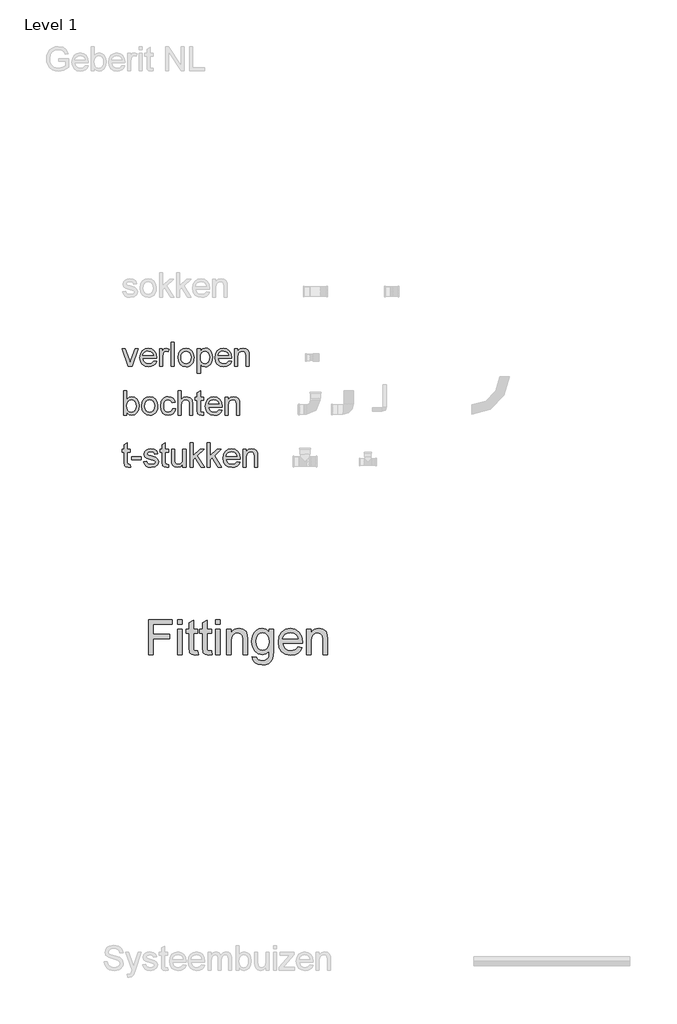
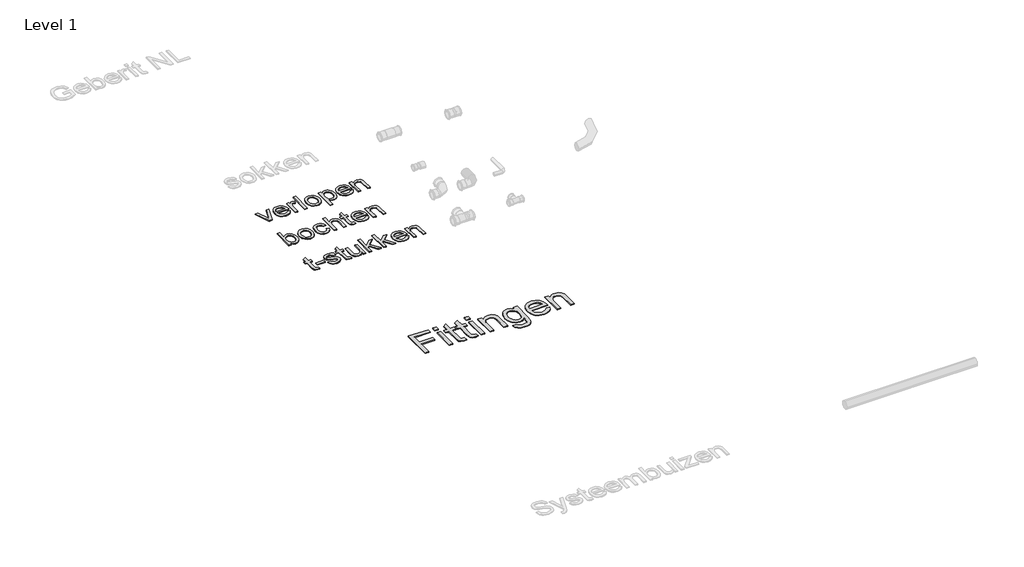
# One storey, part 2 of 8: 4 proxies.
"""IFC4 building model written with IfcOpenShell, lengths in millimetres."""

from ifc_helpers import new_model, si_unit, origin, origin_with_axes, place, context, project, spatial, polyline, outline, extrude, element, save

model = new_model("IFC4")

# Units and contexts
model_context = context("Model", 3, world=origin())
ifc_project = project(units=[si_unit("LENGTHUNIT", "METRE", prefix="MILLI")], contexts=[model_context])

# Site, building, storey
site = spatial("IfcSite", under=ifc_project)
building = spatial("IfcBuilding", under=site)
storey = spatial("IfcBuildingStorey", under=building, Name="Level 1", Elevation=0.0)

# Proxies
placement = place(None, origin())
element("IfcBuildingElementProxy", 1, Name="medium", ObjectType="medium", at=placement, inside=storey, context=model_context, shape_type="SweptSolid", body=[
    extrude(outline(polyline([(-1483.0852638, 3277.8495437), (-1483.0852638, 3478.762164), (-1348.097097, 3478.762164), (-1348.097097, 3453.6480864), (-1457.9711862, 3453.6480864), (-1457.9711862, 3394.0021523), (-1363.7933955, 3394.0021523), (-1363.7933955, 3368.8880747), (-1457.9711862, 3368.8880747), (-1457.9711862, 3277.8495437), (-1483.0852638, 3277.8495437)])), origin_with_axes(), (0.0, 0.0, 1.0), 5.0),
    extrude(outline(polyline([(-1316.7045001, 3277.8495437), (-1316.7045001, 3425.3947492), (-1291.5904225, 3425.3947492), (-1291.5904225, 3277.8495437), (-1316.7045001, 3277.8495437)])), origin_with_axes(), (0.0, 0.0, 1.0), 5.0),
    extrude(outline(polyline([(-1316.7045001, 3453.6480864), (-1316.7045001, 3478.762164), (-1291.5904225, 3478.762164), (-1291.5904225, 3453.6480864), (-1316.7045001, 3453.6480864)])), origin_with_axes(), (0.0, 0.0, 1.0), 5.0),
    extrude(outline(polyline([(-1200.5518915, 3298.7942919), (-1197.4126318, 3277.1137797), (-1216.199139, 3274.710284), (-1237.2419891, 3278.8796132), (-1247.7388887, 3289.8179712), (-1250.7800466, 3318.3165631), (-1250.7800466, 3400.2806717), (-1269.6156047, 3400.2806717), (-1269.6156047, 3425.3947492), (-1250.7800466, 3425.3947492), (-1250.7800466, 3461.250981), (-1225.665969, 3476.0153117), (-1225.665969, 3425.3947492), (-1200.5518915, 3425.3947492), (-1200.5518915, 3400.2806717), (-1225.665969, 3400.2806717), (-1225.665969, 3319.0523271), (-1224.3415938, 3306.1028809), (-1220.0496372, 3301.5166187), (-1211.4902495, 3299.8243615), (-1200.5518915, 3298.7942919)])), origin_with_axes(), (0.0, 0.0, 1.0), 5.0),
    extrude(outline(polyline([(-1122.0703992, 3298.7942919), (-1118.9311395, 3277.1137797), (-1137.7176467, 3274.710284), (-1158.7604968, 3278.8796132), (-1169.2573964, 3289.8179712), (-1172.2985542, 3318.3165631), (-1172.2985542, 3400.2806717), (-1191.1341124, 3400.2806717), (-1191.1341124, 3425.3947492), (-1172.2985542, 3425.3947492), (-1172.2985542, 3461.250981), (-1147.1844767, 3476.0153117), (-1147.1844767, 3425.3947492), (-1122.0703992, 3425.3947492), (-1122.0703992, 3400.2806717), (-1147.1844767, 3400.2806717), (-1147.1844767, 3319.0523271), (-1145.8601015, 3306.1028809), (-1141.5681449, 3301.5166187), (-1133.0087572, 3299.8243615), (-1122.0703992, 3298.7942919)])), origin_with_axes(), (0.0, 0.0, 1.0), 5.0),
    extrude(outline(polyline([(-1096.9563216, 3277.8495437), (-1096.9563216, 3425.3947492), (-1071.8422441, 3425.3947492), (-1071.8422441, 3277.8495437), (-1096.9563216, 3277.8495437)])), origin_with_axes(), (0.0, 0.0, 1.0), 5.0),
    extrude(outline(polyline([(-1096.9563216, 3453.6480864), (-1096.9563216, 3478.762164), (-1071.8422441, 3478.762164), (-1071.8422441, 3453.6480864), (-1096.9563216, 3453.6480864)])), origin_with_axes(), (0.0, 0.0, 1.0), 5.0),
    extrude(outline(polyline([(-1034.1711278, 3277.8495437), (-1034.1711278, 3425.3947492), (-1009.0570503, 3425.3947492), (-1009.0570503, 3404.7933575), (-1000.3321156, 3415.1798925), (-989.8536101, 3422.598846), (-977.6215338, 3427.0502182), (-963.6358866, 3428.5340089), (-939.9197606, 3423.7515429), (-923.7329528, 3411.1945042), (-916.2036347, 3392.726828), (-914.8792595, 3368.4466163), (-914.8792595, 3277.8495437), (-939.993337, 3277.8495437), (-939.993337, 3365.062102), (-942.8873421, 3387.2821745), (-953.1144615, 3399.0298729), (-970.3558644, 3403.4199313), (-985.0650128, 3400.955122), (-997.6036575, 3393.5606939), (-1006.1937021, 3379.2746097), (-1009.0570503, 3356.1348322), (-1009.0570503, 3277.8495437), (-1034.1711278, 3277.8495437)])), origin_with_axes(), (0.0, 0.0, 1.0), 5.0),
    extrude(outline(polyline([(-886.6259223, 3265.2925049), (-861.5118447, 3262.1532452), (-858.740467, 3254.305096), (-853.3693899, 3248.9094934), (-842.8111766, 3244.7156386), (-828.9910763, 3243.317687), (-814.2512711, 3244.8995796), (-803.2883876, 3249.6452574), (-795.6854931, 3257.2481519), (-791.0256544, 3267.401695), (-789.3088718, 3296.6851018), (-806.991733, 3282.5584332), (-828.549618, 3277.8495437), (-854.442379, 3283.3309854), (-873.7500524, 3299.7753106), (-885.7613996, 3323.883844), (-889.7651819, 3352.3579104), (-887.9686915, 3372.6343397), (-882.5792203, 3391.2798255), (-873.7868406, 3407.0803572), (-861.7816249, 3418.8219242), (-846.9743745, 3426.1059877), (-829.7758913, 3428.5340089), (-807.3718778, 3423.0403044), (-789.3088718, 3406.559191), (-789.3088718, 3425.3947492), (-764.1947943, 3425.3947492), (-764.1947943, 3298.009477), (-765.9115769, 3268.5973115), (-771.0619248, 3249.2283244), (-779.9340123, 3236.3831114), (-792.8160135, 3226.5422681), (-809.4258856, 3220.2882741), (-829.4815857, 3218.2036095), (-852.8482237, 3221.1405341), (-871.2484549, 3229.9513079), (-883.0513355, 3244.6604563), (-886.6259223, 3265.2925049)]), holes=[polyline([(-864.6511044, 3354.0746931), (-861.9716972, 3331.0391488), (-853.9334756, 3315.2018289), (-841.8485521, 3306.0231731), (-827.029039, 3302.9636212), (-812.3198906, 3306.004779), (-800.1736534, 3315.1282525), (-792.0250672, 3330.7632373), (-789.3088718, 3353.3389291), (-792.104775, 3375.1114118), (-800.4924845, 3390.7893162), (-812.8165313, 3400.2622776), (-827.4214465, 3403.4199313), (-841.7627129, 3400.3113285), (-853.7863228, 3390.9855199), (-861.934909, 3375.5406075), (-864.6511044, 3354.0746931)])]), origin_with_axes(), (0.0, 0.0, 1.0), 5.0),
    extrude(outline(polyline([(-623.2224137, 3321.7991793), (-598.5988455, 3318.6599197), (-607.470933, 3300.1064044), (-621.6282584, 3286.2372531), (-640.7519908, 3277.5920263), (-664.523299, 3274.710284), (-693.9906469, 3279.6828223), (-716.6644405, 3294.6004372), (-731.1222029, 3318.4943728), (-735.941457, 3350.3958731), (-731.073152, 3383.3703626), (-716.4682368, 3408.030719), (-694.1010114, 3423.4081864), (-665.9457761, 3428.5340089), (-638.6673261, 3423.4204491), (-616.8703179, 3408.07977), (-602.5781024, 3383.4684645), (-597.8140306, 3350.5430259), (-597.9611834, 3343.7739972), (-710.8273795, 3343.7739972), (-706.4802406, 3324.9752272), (-696.3818798, 3311.155127), (-681.8076214, 3302.6570529), (-664.0327897, 3299.8243615), (-639.4092215, 3305.0728113), (-630.2612226, 3311.8786282), (-623.2224137, 3321.7991793)]), holes=[polyline([(-710.8273795, 3368.8880747), (-622.9281081, 3368.8880747), (-626.3248852, 3382.156352), (-632.9835493, 3391.6477075), (-647.6252527, 3400.4768754), (-666.0438779, 3403.4199313), (-682.9725811, 3401.0716179), (-696.970491, 3394.0266777), (-706.7009698, 3383.0454002), (-710.8273795, 3368.8880747)])]), origin_with_axes(), (0.0, 0.0, 1.0), 5.0),
    extrude(outline(polyline([(-572.699953, 3277.8495437), (-572.699953, 3425.3947492), (-547.5858755, 3425.3947492), (-547.5858755, 3404.7933575), (-538.8609409, 3415.1798925), (-528.3824354, 3422.598846), (-516.150359, 3427.0502182), (-502.1647118, 3428.5340089), (-478.4485859, 3423.7515429), (-462.2617781, 3411.1945042), (-454.7324599, 3392.726828), (-453.4080847, 3368.4466163), (-453.4080847, 3277.8495437), (-478.5221623, 3277.8495437), (-478.5221623, 3365.062102), (-481.4161673, 3387.2821745), (-491.6432868, 3399.0298729), (-508.8846896, 3403.4199313), (-523.5938381, 3400.955122), (-536.1324827, 3393.5606939), (-544.7225273, 3379.2746097), (-547.5858755, 3356.1348322), (-547.5858755, 3277.8495437), (-572.699953, 3277.8495437)])), origin_with_axes(), (0.0, 0.0, 1.0), 5.0),
])
element("IfcBuildingElementProxy", 2, Name="small", ObjectType="small", at=placement, inside=storey, context=model_context, shape_type="SweptSolid", body=[
    extrude(outline(polyline([(-1602.2891606, 4938.9619491), (-1638.6162814, 5042.2435929), (-1620.0063575, 5042.2435929), (-1597.997204, 4980.3707464), (-1591.370423, 4959.5633408), (-1584.8809846, 4979.2033343), (-1562.7344885, 5042.2435929), (-1544.1245646, 5042.2435929), (-1580.0053219, 4938.9619491), (-1602.2891606, 4938.9619491)])), origin_with_axes(), (0.0, 0.0, 1.0), 5.0),
    extrude(outline(polyline([(-1456.4313072, 4969.7266941), (-1439.1948094, 4967.5292123), (-1445.4052706, 4954.5417516), (-1455.3153984, 4944.8333457), (-1468.7020111, 4938.7816869), (-1485.3419269, 4936.7644673), (-1505.9690704, 4940.2452441), (-1521.8407259, 4950.6875745), (-1531.9611596, 4967.4133294), (-1535.3346375, 4989.7443797), (-1531.9268239, 5012.8265223), (-1521.7033833, 5030.0887718), (-1506.0463256, 5040.852999), (-1486.3376608, 5044.4410747), (-1467.2427459, 5040.8615829), (-1451.9848401, 5030.1231075), (-1441.9802893, 5012.8951936), (-1438.645439, 4989.8473866), (-1438.7484459, 4985.1090665), (-1517.7547832, 4985.1090665), (-1514.711786, 4971.9499276), (-1507.6429334, 4962.2758574), (-1497.4409526, 4956.3272055), (-1484.9985704, 4954.3443216), (-1467.7620726, 4958.0182364), (-1456.4313072, 4969.7266941)]), holes=[polyline([(-1517.7547832, 5002.6889208), (-1456.2252932, 5002.6889208), (-1463.2641021, 5018.6206638), (-1473.5132945, 5024.8010813), (-1486.4063321, 5026.8612205), (-1498.2564243, 5025.2174011), (-1508.0549613, 5020.2859429), (-1514.8662964, 5012.5990486), (-1517.7547832, 5002.6889208)])]), origin_with_axes(), (0.0, 0.0, 1.0), 5.0),
    extrude(outline(polyline([(-1421.0655847, 4938.9619491), (-1421.0655847, 5042.2435929), (-1405.6832122, 5042.2435929), (-1405.6832122, 5026.9642274), (-1394.7644746, 5041.0418451), (-1383.7770657, 5044.4410747), (-1366.1285401, 5039.0160416), (-1371.9999367, 5023.2559769), (-1384.3607718, 5026.8612205), (-1394.3009433, 5023.3933195), (-1400.6358712, 5013.7793367), (-1403.4857304, 4993.2466163), (-1403.4857304, 4938.9619491), (-1421.0655847, 4938.9619491)])), origin_with_axes(), (0.0, 0.0, 1.0), 5.0),
    extrude(outline(polyline([(-1355.1411312, 4938.9619491), (-1355.1411312, 5079.6007833), (-1337.5612769, 5079.6007833), (-1337.5612769, 4938.9619491), (-1355.1411312, 4938.9619491)])), origin_with_axes(), (0.0, 0.0, 1.0), 5.0),
    extrude(outline(polyline([(-1315.586459, 4990.602771), (-1311.7837855, 5015.5047033), (-1300.3757648, 5033.0073023), (-1286.2809793, 5041.5826316), (-1269.4050059, 5044.4410747), (-1250.9367166, 5040.9602979), (-1236.1852617, 5030.5179675), (-1226.5154835, 5013.9381391), (-1223.2922241, 4992.0448684), (-1224.7171537, 4974.284752), (-1228.9919425, 4960.7650887), (-1235.9921237, 4950.640363), (-1245.5932306, 4943.0650596), (-1256.9969593, 4938.3396154), (-1269.4050059, 4936.7644673), (-1288.0964769, 4940.2323682), (-1302.830764, 4950.6360711), (-1312.3975353, 4967.5635479), (-1315.586459, 4990.602771)]), holes=[polyline([(-1298.0066048, 4990.6371067), (-1295.9722173, 4974.7268235), (-1289.869055, 4963.3917661), (-1280.6842679, 4956.6061827), (-1269.4050059, 4954.3443216), (-1258.1772474, 4956.6190586), (-1249.0096281, 4963.4432696), (-1242.9064658, 4974.9285455), (-1240.8720784, 4991.1864771), (-1242.9193417, 5006.6332289), (-1249.0611316, 5017.8137759), (-1258.2416268, 5024.5993593), (-1269.4050059, 5026.8612205), (-1280.6842679, 5024.6079432), (-1289.869055, 5017.8481116), (-1295.9722173, 5006.5388059), (-1298.0066048, 4990.6371067)])]), origin_with_axes(), (0.0, 0.0, 1.0), 5.0),
    extrude(outline(polyline([(-1203.514888, 4899.407277), (-1203.514888, 5042.2435929), (-1185.9350338, 5042.2435929), (-1185.9350338, 5025.0070952), (-1173.7802126, 5039.5825798), (-1157.3677706, 5044.4410747), (-1145.4790507, 5042.7414599), (-1135.0839318, 5037.6426155), (-1126.6201934, 5029.4535622), (-1120.525615, 5018.4833211), (-1115.6156166, 4991.392491), (-1121.1608246, 4962.911067), (-1127.9592839, 4951.7348119), (-1137.2642458, 4943.5114231), (-1148.1014362, 4938.4512062), (-1159.496581, 4936.7644673), (-1174.7931144, 4941.2796056), (-1185.9350338, 4952.6962102), (-1185.9350338, 4899.407277), (-1203.514888, 4899.407277)]), holes=[polyline([(-1185.9350338, 4989.7787153), (-1184.033697, 4974.0186507), (-1178.3296866, 4962.9969061), (-1169.9131597, 4956.5074677), (-1159.8742732, 4954.3443216), (-1149.6722923, 4956.5847229), (-1141.0411676, 4963.305927), (-1135.1568951, 4974.7311155), (-1133.1954709, 4991.0834701), (-1135.1096836, 5006.7576957), (-1140.8523215, 5017.9339507), (-1149.2559726, 5024.629403), (-1159.1532245, 5026.8612205), (-1169.0891041, 5024.4877684), (-1177.8146518, 5017.3674124), (-1183.9049383, 5005.7233341), (-1185.9350338, 4989.7787153)])]), origin_with_axes(), (0.0, 0.0, 1.0), 5.0),
    extrude(outline(polyline([(-1023.5273956, 4969.7266941), (-1006.2908979, 4967.5292123), (-1012.5013591, 4954.5417516), (-1022.4114869, 4944.8333457), (-1035.7980996, 4938.7816869), (-1052.4380153, 4936.7644673), (-1073.0651588, 4940.2452441), (-1088.9368144, 4950.6875745), (-1099.057248, 4967.4133294), (-1102.4307259, 4989.7443797), (-1099.0229124, 5012.8265223), (-1088.7994717, 5030.0887718), (-1073.142414, 5040.852999), (-1053.4337493, 5044.4410747), (-1034.3388343, 5040.8615829), (-1019.0809286, 5030.1231075), (-1009.0763777, 5012.8951936), (-1005.7415274, 4989.8473866), (-1005.8445344, 4985.1090665), (-1084.8508717, 4985.1090665), (-1081.8078744, 4971.9499276), (-1074.7390219, 4962.2758574), (-1064.537041, 4956.3272055), (-1052.0946588, 4954.3443216), (-1034.8581611, 4958.0182364), (-1023.5273956, 4969.7266941)]), holes=[polyline([(-1084.8508717, 5002.6889208), (-1023.3213817, 5002.6889208), (-1030.3601905, 5018.6206638), (-1040.6093829, 5024.8010813), (-1053.5024206, 5026.8612205), (-1065.3525128, 5025.2174011), (-1075.1510497, 5020.2859429), (-1081.9623849, 5012.5990486), (-1084.8508717, 5002.6889208)])]), origin_with_axes(), (0.0, 0.0, 1.0), 5.0),
    extrude(outline(polyline([(-988.1616731, 4938.9619491), (-988.1616731, 5042.2435929), (-970.5818189, 5042.2435929), (-970.5818189, 5027.8226187), (-957.1394108, 5040.2864607), (-938.7870043, 5044.4410747), (-922.1857161, 5041.0933486), (-910.8549507, 5032.3034214), (-905.584428, 5019.3760481), (-904.6573653, 5002.3798999), (-904.6573653, 4938.9619491), (-922.2372196, 4938.9619491), (-922.2372196, 5000.0107399), (-924.2630231, 5015.5647907), (-931.4220068, 5023.7881795), (-943.4909887, 5026.8612205), (-953.7873927, 5025.1358539), (-962.5644439, 5019.9597542), (-968.5774751, 5009.9594953), (-970.5818189, 4993.7616511), (-970.5818189, 4938.9619491), (-988.1616731, 4938.9619491)])), origin_with_axes(), (0.0, 0.0, 1.0), 5.0),
])
element("IfcBuildingElementProxy", 3, Name="small", ObjectType="small", at=placement, inside=storey, context=model_context, shape_type="SweptSolid", body=[
    extrude(outline(polyline([(-1610.0490182, 4658.9619491), (-1627.6288724, 4658.9619491), (-1627.6288724, 4799.6007833), (-1610.0490182, 4799.6007833), (-1610.0490182, 4747.4449266), (-1597.7396866, 4760.1920377), (-1582.4431532, 4764.4410747), (-1564.8289633, 4760.6126494), (-1551.1633735, 4749.8484223), (-1542.7683063, 4733.1097915), (-1539.7296011, 4712.1478754), (-1542.8756053, 4688.6794566), (-1552.3136178, 4671.2197772), (-1566.1637618, 4660.3782948), (-1582.5461602, 4656.7644673), (-1598.1774662, 4661.4255322), (-1610.0490182, 4675.4087268), (-1610.0490182, 4658.9619491)]), holes=[polyline([(-1610.0490182, 4711.3238197), (-1608.8472703, 4696.6624959), (-1605.2420268, 4686.7394923), (-1596.0314879, 4677.4431142), (-1584.0569289, 4674.3443216), (-1573.9107435, 4676.6276425), (-1565.2409912, 4683.4776052), (-1559.2923393, 4694.8512902), (-1557.3094553, 4710.705778), (-1559.2107921, 4726.7920313), (-1564.9148024, 4738.0369577), (-1573.3141615, 4744.6551548), (-1583.3015446, 4746.8612205), (-1593.44773, 4744.5778995), (-1602.1174823, 4737.7279368), (-1608.0661342, 4726.5602657), (-1610.0490182, 4711.3238197)])]), origin_with_axes(), (0.0, 0.0, 1.0), 5.0),
    extrude(outline(polyline([(-1524.3472286, 4710.602771), (-1520.544555, 4735.5047033), (-1509.1365343, 4753.0073023), (-1495.0417488, 4761.5826316), (-1478.1657754, 4764.4410747), (-1459.6974861, 4760.9602979), (-1444.9460313, 4750.5179675), (-1435.276253, 4733.9381391), (-1432.0529936, 4712.0448684), (-1433.4779232, 4694.284752), (-1437.752712, 4680.7650887), (-1444.7528932, 4670.640363), (-1454.3540002, 4663.0650596), (-1465.7577289, 4658.3396154), (-1478.1657754, 4656.7644673), (-1496.8572465, 4660.2323682), (-1511.5915335, 4670.6360711), (-1521.1583048, 4687.5635479), (-1524.3472286, 4710.602771)]), holes=[polyline([(-1506.7673743, 4710.6371067), (-1504.7329869, 4694.7268235), (-1498.6298246, 4683.3917661), (-1489.4450374, 4676.6061827), (-1478.1657754, 4674.3443216), (-1466.9380169, 4676.6190586), (-1457.7703976, 4683.4432696), (-1451.6672353, 4694.9285455), (-1449.6328479, 4711.1864771), (-1451.6801112, 4726.6332289), (-1457.8219011, 4737.8137759), (-1467.0023963, 4744.5993593), (-1478.1657754, 4746.8612205), (-1489.4450374, 4744.6079432), (-1498.6298246, 4737.8481116), (-1504.7329869, 4726.5388059), (-1506.7673743, 4710.6371067)])]), origin_with_axes(), (0.0, 0.0, 1.0), 5.0),
    extrude(outline(polyline([(-1346.351204, 4696.3191394), (-1328.7713497, 4694.1216576), (-1333.6727642, 4678.4860597), (-1342.8833031, 4666.6703031), (-1355.5359912, 4659.2409263), (-1370.7638532, 4656.7644673), (-1389.4639082, 4660.2194924), (-1404.0866043, 4670.5845676), (-1413.5246169, 4687.4047455), (-1416.6706211, 4710.2250788), (-1411.2970914, 4739.4275516), (-1404.5158, 4750.3763329), (-1394.918985, 4758.1919859), (-1383.4380011, 4762.8788025), (-1371.0042028, 4764.4410747), (-1356.149741, 4762.2950964), (-1344.273897, 4755.8571615), (-1335.7543632, 4745.4706265), (-1330.9688315, 4731.478848), (-1348.5486858, 4729.2813662), (-1356.7034034, 4742.4490891), (-1370.8668602, 4746.8612205), (-1382.2276693, 4744.6894904), (-1391.2450702, 4738.1743003), (-1397.1293427, 4726.9637096), (-1399.0907668, 4710.705778), (-1397.1722622, 4694.2289565), (-1391.4167484, 4682.9797383), (-1382.5624419, 4676.5031757), (-1371.3475593, 4674.3443216), (-1354.7806068, 4679.7350191), (-1349.3512817, 4686.5763979), (-1346.351204, 4696.3191394)])), origin_with_axes(), (0.0, 0.0, 1.0), 5.0),
    extrude(outline(polyline([(-1313.3889773, 4658.9619491), (-1313.3889773, 4799.6007833), (-1295.809123, 4799.6007833), (-1295.809123, 4747.89129), (-1282.1006136, 4760.3036286), (-1265.2160563, 4764.4410747), (-1245.4730559, 4759.9259364), (-1233.489913, 4747.4449266), (-1229.8846694, 4724.3370322), (-1229.8846694, 4658.9619491), (-1247.4645237, 4658.9619491), (-1247.4645237, 4722.5172426), (-1248.8637016, 4733.5218193), (-1253.0612351, 4741.0584951), (-1259.8253588, 4745.4105391), (-1268.9243068, 4746.8612205), (-1283.3281132, 4742.946956), (-1292.942096, 4732.3372393), (-1295.809123, 4713.8303224), (-1295.809123, 4658.9619491), (-1313.3889773, 4658.9619491)])), origin_with_axes(), (0.0, 0.0, 1.0), 5.0),
    extrude(outline(polyline([(-1168.3551795, 4673.6232729), (-1166.1576977, 4658.4469143), (-1179.3082527, 4656.7644673), (-1194.0382478, 4659.6829978), (-1201.3860775, 4667.3398484), (-1203.514888, 4687.2888627), (-1203.514888, 4744.6637387), (-1216.6997787, 4744.6637387), (-1216.6997787, 4762.2435929), (-1203.514888, 4762.2435929), (-1203.514888, 4787.3429552), (-1185.9350338, 4797.6779867), (-1185.9350338, 4762.2435929), (-1168.3551795, 4762.2435929), (-1168.3551795, 4744.6637387), (-1185.9350338, 4744.6637387), (-1185.9350338, 4687.8038975), (-1185.0079711, 4678.7392851), (-1182.0036015, 4675.5289016), (-1176.0120301, 4674.3443216), (-1168.3551795, 4673.6232729)])), origin_with_axes(), (0.0, 0.0, 1.0), 5.0),
    extrude(outline(polyline([(-1078.4644402, 4689.7266941), (-1061.2279425, 4687.5292123), (-1067.4384037, 4674.5417516), (-1077.3485315, 4664.8333457), (-1090.7351442, 4658.7816869), (-1107.37506, 4656.7644673), (-1128.0022034, 4660.2452441), (-1143.873859, 4670.6875745), (-1153.9942927, 4687.4133294), (-1157.3677706, 4709.7443797), (-1153.959957, 4732.8265223), (-1143.7365164, 4750.0887718), (-1128.0794586, 4760.852999), (-1108.3707939, 4764.4410747), (-1089.2758789, 4760.8615829), (-1074.0179732, 4750.1231075), (-1064.0134223, 4732.8951936), (-1060.678572, 4709.8473866), (-1060.781579, 4705.1090665), (-1139.7879163, 4705.1090665), (-1136.744919, 4691.9499276), (-1129.6760665, 4682.2758574), (-1119.4740856, 4676.3272055), (-1107.0317034, 4674.3443216), (-1089.7952057, 4678.0182364), (-1078.4644402, 4689.7266941)]), holes=[polyline([(-1139.7879163, 4722.6889208), (-1078.2584263, 4722.6889208), (-1085.2972352, 4738.6206638), (-1095.5464275, 4744.8010813), (-1108.4394652, 4746.8612205), (-1120.2895574, 4745.2174011), (-1130.0880943, 4740.2859429), (-1136.8994295, 4732.5990486), (-1139.7879163, 4722.6889208)])]), origin_with_axes(), (0.0, 0.0, 1.0), 5.0),
    extrude(outline(polyline([(-1043.0987178, 4658.9619491), (-1043.0987178, 4762.2435929), (-1025.5188635, 4762.2435929), (-1025.5188635, 4747.8226187), (-1012.0764554, 4760.2864607), (-993.7240489, 4764.4410747), (-977.1227607, 4761.0933486), (-965.7919953, 4752.3034214), (-960.5214726, 4739.3760481), (-959.5944099, 4722.3798999), (-959.5944099, 4658.9619491), (-977.1742642, 4658.9619491), (-977.1742642, 4720.0107399), (-979.2000677, 4735.5647907), (-986.3590514, 4743.7881795), (-998.4280334, 4746.8612205), (-1008.7244373, 4745.1358539), (-1017.5014885, 4739.9597542), (-1023.5145197, 4729.9594953), (-1025.5188635, 4713.7616511), (-1025.5188635, 4658.9619491), (-1043.0987178, 4658.9619491)])), origin_with_axes(), (0.0, 0.0, 1.0), 5.0),
])
element("IfcBuildingElementProxy", 4, Name="small", ObjectType="small", at=placement, inside=storey, context=model_context, shape_type="SweptSolid", body=[
    extrude(outline(polyline([(-1590.2716821, 4373.6232729), (-1588.0742003, 4358.4469143), (-1601.2247554, 4356.7644673), (-1615.9547505, 4359.6829978), (-1623.3025802, 4367.3398484), (-1625.4313907, 4387.2888627), (-1625.4313907, 4444.6637387), (-1638.6162814, 4444.6637387), (-1638.6162814, 4462.2435929), (-1625.4313907, 4462.2435929), (-1625.4313907, 4487.3429552), (-1607.8515364, 4497.6779867), (-1607.8515364, 4462.2435929), (-1590.2716821, 4462.2435929), (-1590.2716821, 4444.6637387), (-1607.8515364, 4444.6637387), (-1607.8515364, 4387.8038975), (-1606.9244738, 4378.7392851), (-1603.9201041, 4375.5289016), (-1597.9285327, 4374.3443216), (-1590.2716821, 4373.6232729)])), origin_with_axes(), (0.0, 0.0, 1.0), 5.0),
    extrude(outline(polyline([(-1581.481755, 4400.714103), (-1581.481755, 4418.2939573), (-1526.5447104, 4418.2939573), (-1526.5447104, 4400.714103), (-1581.481755, 4400.714103)])), origin_with_axes(), (0.0, 0.0, 1.0), 5.0),
    extrude(outline(polyline([(-1513.3598196, 4389.7266941), (-1495.7799654, 4391.9241758), (-1493.0073614, 4384.4046679), (-1487.6424156, 4378.8766277), (-1468.9981561, 4374.3443216), (-1451.0749453, 4378.4989356), (-1445.2378843, 4388.250261), (-1451.109281, 4396.1474611), (-1469.20417, 4401.1604665), (-1495.6769584, 4409.7615475), (-1507.2309056, 4419.804726), (-1511.1623379, 4433.9853506), (-1508.0034578, 4447.0844022), (-1499.3852089, 4457.093245), (-1488.2089539, 4462.2950964), (-1473.0840988, 4464.4410747), (-1451.6929871, 4460.9903416), (-1438.0960685, 4451.651044), (-1432.0529936, 4435.8738115), (-1449.6328479, 4433.6763297), (-1456.2424611, 4443.3761517), (-1471.7106727, 4446.8612205), (-1488.5351426, 4443.5306621), (-1493.5824836, 4435.7708046), (-1491.4880088, 4430.6547923), (-1484.9298991, 4426.7748635), (-1469.7878761, 4423.0322774), (-1443.984633, 4414.757385), (-1432.0014901, 4405.3837518), (-1427.65803, 4390.1043862), (-1432.7568745, 4373.2799163), (-1447.4697018, 4361.0735917), (-1469.2385057, 4356.7644673), (-1486.9642865, 4358.8417743), (-1499.9002437, 4365.0736953), (-1508.5356604, 4375.391559), (-1513.3598196, 4389.7266941)])), origin_with_axes(), (0.0, 0.0, 1.0), 5.0),
    extrude(outline(polyline([(-1370.5235037, 4373.6232729), (-1368.3260219, 4358.4469143), (-1381.4765769, 4356.7644673), (-1396.206572, 4359.6829978), (-1403.5544017, 4367.3398484), (-1405.6832122, 4387.2888627), (-1405.6832122, 4444.6637387), (-1418.8681029, 4444.6637387), (-1418.8681029, 4462.2435929), (-1405.6832122, 4462.2435929), (-1405.6832122, 4487.3429552), (-1388.1033579, 4497.6779867), (-1388.1033579, 4462.2435929), (-1370.5235037, 4462.2435929), (-1370.5235037, 4444.6637387), (-1388.1033579, 4444.6637387), (-1388.1033579, 4387.8038975), (-1387.1762953, 4378.7392851), (-1384.1719257, 4375.5289016), (-1378.1803542, 4374.3443216), (-1370.5235037, 4373.6232729)])), origin_with_axes(), (0.0, 0.0, 1.0), 5.0),
    extrude(outline(polyline([(-1287.0191958, 4358.9619491), (-1287.0191958, 4376.7134816), (-1300.7877926, 4361.7517209), (-1318.7453391, 4356.7644673), (-1335.277956, 4360.2667039), (-1346.6773927, 4369.056631), (-1351.9135798, 4382.0011722), (-1352.9436494, 4398.3449429), (-1352.9436494, 4462.2435929), (-1335.3637951, 4462.2435929), (-1335.3637951, 4406.6198353), (-1334.2993899, 4388.6966245), (-1327.3464202, 4378.1727469), (-1314.2473686, 4374.3443216), (-1299.568877, 4378.258586), (-1289.869055, 4388.9198062), (-1287.0191958, 4408.5082962), (-1287.0191958, 4462.2435929), (-1269.4393416, 4462.2435929), (-1269.4393416, 4358.9619491), (-1287.0191958, 4358.9619491)])), origin_with_axes(), (0.0, 0.0, 1.0), 5.0),
    extrude(outline(polyline([(-1245.2670419, 4358.9619491), (-1245.2670419, 4499.6007833), (-1227.6871877, 4499.6007833), (-1227.6871877, 4424.0280113), (-1188.2698581, 4462.2435929), (-1163.9602159, 4462.2435929), (-1203.8582446, 4423.5473121), (-1161.7627341, 4358.9619491), (-1182.2954545, 4358.9619491), (-1216.4594292, 4411.3238197), (-1227.6871877, 4400.4394178), (-1227.6871877, 4358.9619491), (-1245.2670419, 4358.9619491)])), origin_with_axes(), (0.0, 0.0, 1.0), 5.0),
    extrude(outline(polyline([(-1146.3803616, 4358.9619491), (-1146.3803616, 4499.6007833), (-1128.8005074, 4499.6007833), (-1128.8005074, 4424.0280113), (-1089.3831778, 4462.2435929), (-1065.0735356, 4462.2435929), (-1104.9715643, 4423.5473121), (-1062.8760538, 4358.9619491), (-1083.4087742, 4358.9619491), (-1117.5727489, 4411.3238197), (-1128.8005074, 4400.4394178), (-1128.8005074, 4358.9619491), (-1146.3803616, 4358.9619491)])), origin_with_axes(), (0.0, 0.0, 1.0), 5.0),
    extrude(outline(polyline([(-975.1827964, 4389.7266941), (-957.9462986, 4387.5292123), (-964.1567598, 4374.5417516), (-974.0668876, 4364.8333457), (-987.4535003, 4358.7816869), (-1004.0934161, 4356.7644673), (-1024.7205596, 4360.2452441), (-1040.5922151, 4370.6875745), (-1050.7126488, 4387.4133294), (-1054.0861267, 4409.7443797), (-1050.6783131, 4432.8265223), (-1040.4548725, 4450.0887718), (-1024.7978148, 4460.852999), (-1005.08915, 4464.4410747), (-985.9942351, 4460.8615829), (-970.7363293, 4450.1231075), (-960.7317784, 4432.8951936), (-957.3969282, 4409.8473866), (-957.4999351, 4405.1090665), (-1036.5062724, 4405.1090665), (-1033.4632752, 4391.9499276), (-1026.3944226, 4382.2758574), (-1016.1924418, 4376.3272055), (-1003.7500596, 4374.3443216), (-986.5135618, 4378.0182364), (-975.1827964, 4389.7266941)]), holes=[polyline([(-1036.5062724, 4422.6889208), (-974.9767824, 4422.6889208), (-982.0155913, 4438.6206638), (-992.2647837, 4444.8010813), (-1005.1578213, 4446.8612205), (-1017.0079135, 4445.2174011), (-1026.8064505, 4440.2859429), (-1033.6177856, 4432.5990486), (-1036.5062724, 4422.6889208)])]), origin_with_axes(), (0.0, 0.0, 1.0), 5.0),
    extrude(outline(polyline([(-939.8170739, 4358.9619491), (-939.8170739, 4462.2435929), (-922.2372196, 4462.2435929), (-922.2372196, 4447.8226187), (-908.7948115, 4460.2864607), (-890.442405, 4464.4410747), (-873.8411169, 4461.0933486), (-862.5103514, 4452.3034214), (-857.2398287, 4439.3760481), (-856.3127661, 4422.3798999), (-856.3127661, 4358.9619491), (-873.8926203, 4358.9619491), (-873.8926203, 4420.0107399), (-875.9184239, 4435.5647907), (-883.0774075, 4443.7881795), (-895.1463895, 4446.8612205), (-905.4427934, 4445.1358539), (-914.2198447, 4439.9597542), (-920.2328759, 4429.9594953), (-922.2372196, 4413.7616511), (-922.2372196, 4358.9619491), (-939.8170739, 4358.9619491)])), origin_with_axes(), (0.0, 0.0, 1.0), 5.0),
])

save(model, "model.ifc")
